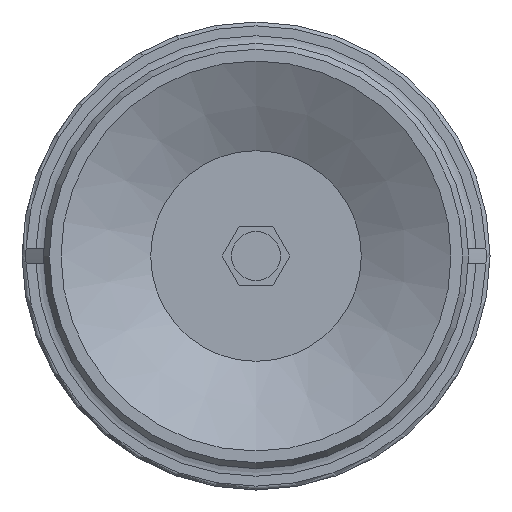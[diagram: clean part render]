
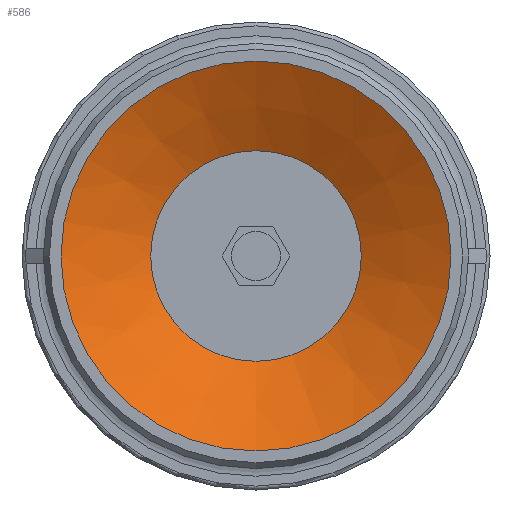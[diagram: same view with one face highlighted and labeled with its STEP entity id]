
A CAD part, front view. The second image highlights one B-rep face of the part: STEP entity #586.
In plain terms, the highlighted conical face has half-angle 61.631 degrees and reference radius 5.4 mm.
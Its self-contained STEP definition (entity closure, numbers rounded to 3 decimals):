
#586=ADVANCED_FACE('',(#908,#909),#910,.F.);
#908=FACE_BOUND('',#1231,.T.);
#909=FACE_OUTER_BOUND('',#1232,.T.);
#910=CONICAL_SURFACE('',#1233,5.4,1.076);
#1231=EDGE_LOOP('',(#2115));
#1232=EDGE_LOOP('',(#2116));
#1233=AXIS2_PLACEMENT_3D('',#2117,#2118,#2119);
#2115=ORIENTED_EDGE('',*,*,#2343,.F.);
#2116=ORIENTED_EDGE('',*,*,#2364,.T.);
#2117=CARTESIAN_POINT('',(0.0,2.484,0.0));
#2118=DIRECTION('',(-0.0,-1.0,0.));
#2119=DIRECTION('',(0.0,0.,-1.0));
#2343=EDGE_CURVE('',#2745,#2745,#2746,.T.);
#2364=EDGE_CURVE('',#2779,#2779,#2780,.T.);
#2745=VERTEX_POINT('',#3609);
#2746=CIRCLE('',#3610,5.4);
#2779=VERTEX_POINT('',#3647);
#2780=CIRCLE('',#3648,10.0);
#3609=CARTESIAN_POINT('',(0.0,2.484,-5.4));
#3610=AXIS2_PLACEMENT_3D('',#3998,#3999,#4000);
#3647=CARTESIAN_POINT('',(0.0,0.,-10.0));
#3648=AXIS2_PLACEMENT_3D('',#4053,#4054,#4055);
#3998=CARTESIAN_POINT('',(0.0,2.484,0.0));
#3999=DIRECTION('',(0.0,-1.0,0.));
#4000=DIRECTION('',(0.0,0.,-1.0));
#4053=CARTESIAN_POINT('',(0.0,0.0,0.0));
#4054=DIRECTION('',(0.0,-1.0,0.));
#4055=DIRECTION('',(0.0,0.,-1.0));
